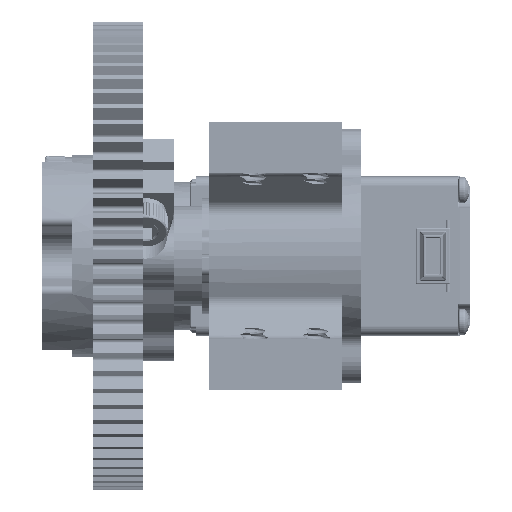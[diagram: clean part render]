
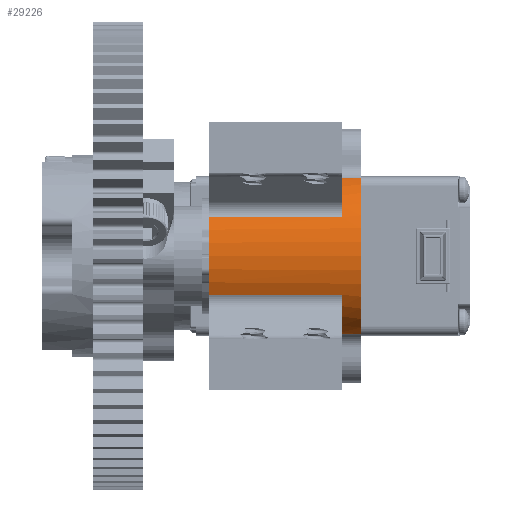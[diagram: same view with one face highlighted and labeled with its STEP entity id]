
A CAD part, left-side view. The second image highlights one B-rep face of the part: STEP entity #29226.
In plain terms, the highlighted cylindrical face has radius 10.735 mm (diameter 21.471 mm), a partial arc.
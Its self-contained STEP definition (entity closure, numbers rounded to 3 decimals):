
#2953 = ORIENTED_EDGE ( 'NONE', *, *, #248728, .F. ) ;
#4568 = AXIS2_PLACEMENT_3D ( 'NONE', #115726, #95705, #263262 ) ;
#6210 = ORIENTED_EDGE ( 'NONE', *, *, #290372, .T. ) ;
#10788 = AXIS2_PLACEMENT_3D ( 'NONE', #66982, #209341, #138287 ) ;
#12346 = CIRCLE ( 'NONE', #305087, 10.735 ) ;
#12388 = LINE ( 'NONE', #135991, #94718 ) ;
#20756 = DIRECTION ( 'NONE',  ( 0., 1., 0. ) ) ;
#25990 = VERTEX_POINT ( 'NONE', #110048 ) ;
#29226 = ADVANCED_FACE ( 'NONE', ( #289295 ), #113260, .T. ) ;
#31185 = VECTOR ( 'NONE', #109866, 1000. ) ;
#33563 = CARTESIAN_POINT ( 'NONE',  ( -52.789, -15.875, -2.866 ) ) ;
#34695 = EDGE_CURVE ( 'NONE', #189962, #194384, #272823, .T. ) ;
#37540 = LINE ( 'NONE', #179242, #258765 ) ;
#41191 = EDGE_CURVE ( 'NONE', #274925, #192843, #219876, .T. ) ;
#42057 = CARTESIAN_POINT ( 'NONE',  ( -58.056, -13.472, -7.841 ) ) ;
#45050 = VERTEX_POINT ( 'NONE', #226093 ) ;
#46767 = DIRECTION ( 'NONE',  ( 0., 1., 0. ) ) ;
#47224 = LINE ( 'NONE', #167829, #223400 ) ;
#48567 = ORIENTED_EDGE ( 'NONE', *, *, #34695, .T. ) ;
#50046 = CARTESIAN_POINT ( 'NONE',  ( -53.314, -13.472, -22.287 ) ) ;
#50118 = VECTOR ( 'NONE', #294051, 1000. ) ;
#52705 = ORIENTED_EDGE ( 'NONE', *, *, #112967, .T. ) ;
#56481 = VERTEX_POINT ( 'NONE', #68663 ) ;
#61334 = LINE ( 'NONE', #310868, #50118 ) ;
#61707 = EDGE_CURVE ( 'NONE', #189984, #268165, #191905, .T. ) ;
#63492 = ORIENTED_EDGE ( 'NONE', *, *, #274928, .T. ) ;
#64903 = LINE ( 'NONE', #304509, #31185 ) ;
#65732 = DIRECTION ( 'NONE',  ( 0., 1., 0. ) ) ;
#66293 = DIRECTION ( 'NONE',  ( 0., 0., -1. ) ) ;
#66678 = VECTOR ( 'NONE', #199293, 1000. ) ;
#66982 = CARTESIAN_POINT ( 'NONE',  ( -48.483, -13.472, -12.7 ) ) ;
#68663 = CARTESIAN_POINT ( 'NONE',  ( -53.314, 3.175, -3.113 ) ) ;
#69589 = DIRECTION ( 'NONE',  ( 0., 1., 0. ) ) ;
#69874 = EDGE_CURVE ( 'NONE', #228761, #165681, #273400, .T. ) ;
#71322 = AXIS2_PLACEMENT_3D ( 'NONE', #155787, #107542, #275098 ) ;
#72467 = CARTESIAN_POINT ( 'NONE',  ( -52.789, -12.7, -22.534 ) ) ;
#76902 = EDGE_LOOP ( 'NONE', ( #2953, #303535, #63492, #175242, #48567, #273237, #52705, #163995, #118541, #217559, #148208, #168566, #207910, #173439, #6210, #307250 ) ) ;
#80987 = CARTESIAN_POINT ( 'NONE',  ( -52.789, 0., -2.866 ) ) ;
#82636 = CIRCLE ( 'NONE', #206470, 10.735 ) ;
#86914 = DIRECTION ( 'NONE',  ( 0., 1., 0. ) ) ;
#89845 = EDGE_CURVE ( 'NONE', #56481, #111208, #47224, .T. ) ;
#94718 = VECTOR ( 'NONE', #65732, 1000. ) ;
#95705 = DIRECTION ( 'NONE',  ( 0., 1., 0. ) ) ;
#107542 = DIRECTION ( 'NONE',  ( 0., 1., 0. ) ) ;
#109866 = DIRECTION ( 'NONE',  ( 0., 1., 0. ) ) ;
#110048 = CARTESIAN_POINT ( 'NONE',  ( -52.789, -15.875, -22.534 ) ) ;
#111208 = VERTEX_POINT ( 'NONE', #116134 ) ;
#112967 = EDGE_CURVE ( 'NONE', #150498, #45050, #249383, .T. ) ;
#113260 = CYLINDRICAL_SURFACE ( 'NONE', #287804, 10.735 ) ;
#115726 = CARTESIAN_POINT ( 'NONE',  ( -48.483, -13.472, -12.7 ) ) ;
#116134 = CARTESIAN_POINT ( 'NONE',  ( -53.314, -13.472, -3.113 ) ) ;
#118541 = ORIENTED_EDGE ( 'NONE', *, *, #89845, .T. ) ;
#119279 = CARTESIAN_POINT ( 'NONE',  ( -48.483, -12.7, -23.435 ) ) ;
#119800 = CARTESIAN_POINT ( 'NONE',  ( -52.789, -12.7, -2.866 ) ) ;
#122537 = EDGE_CURVE ( 'NONE', #296047, #207286, #199810, .T. ) ;
#129003 = CARTESIAN_POINT ( 'NONE',  ( -58.056, 3.175, -7.841 ) ) ;
#130312 = DIRECTION ( 'NONE',  ( 0., -1., 0. ) ) ;
#135991 = CARTESIAN_POINT ( 'NONE',  ( -58.056, 0., -7.841 ) ) ;
#138287 = DIRECTION ( 'NONE',  ( 0., 0., -1. ) ) ;
#144475 = CARTESIAN_POINT ( 'NONE',  ( -58.056, -13.472, -17.559 ) ) ;
#146474 = CIRCLE ( 'NONE', #200219, 10.735 ) ;
#148208 = ORIENTED_EDGE ( 'NONE', *, *, #221263, .T. ) ;
#148251 = VECTOR ( 'NONE', #69589, 1000. ) ;
#150498 = VERTEX_POINT ( 'NONE', #246545 ) ;
#155787 = CARTESIAN_POINT ( 'NONE',  ( -48.483, 3.175, -12.7 ) ) ;
#159603 = CARTESIAN_POINT ( 'NONE',  ( -48.483, -12.7, -12.7 ) ) ;
#162755 = DIRECTION ( 'NONE',  ( 0., 1., 0. ) ) ;
#163995 = ORIENTED_EDGE ( 'NONE', *, *, #308040, .F. ) ;
#165681 = VERTEX_POINT ( 'NONE', #144475 ) ;
#167829 = CARTESIAN_POINT ( 'NONE',  ( -53.314, 0., -3.113 ) ) ;
#168566 = ORIENTED_EDGE ( 'NONE', *, *, #122537, .F. ) ;
#169892 = DIRECTION ( 'NONE',  ( 0., -1., 0. ) ) ;
#171041 = VECTOR ( 'NONE', #130312, 1000. ) ;
#173439 = ORIENTED_EDGE ( 'NONE', *, *, #69874, .F. ) ;
#175242 = ORIENTED_EDGE ( 'NONE', *, *, #238679, .F. ) ;
#176381 = CARTESIAN_POINT ( 'NONE',  ( -58.056, 0., -17.559 ) ) ;
#179242 = CARTESIAN_POINT ( 'NONE',  ( -48.483, 0., -23.435 ) ) ;
#182578 = DIRECTION ( 'NONE',  ( 0., 1., 0. ) ) ;
#184301 = CARTESIAN_POINT ( 'NONE',  ( -58.056, 3.175, -17.559 ) ) ;
#189962 = VERTEX_POINT ( 'NONE', #33563 ) ;
#189984 = VERTEX_POINT ( 'NONE', #225263 ) ;
#191905 = CIRCLE ( 'NONE', #71322, 10.735 ) ;
#192843 = VERTEX_POINT ( 'NONE', #72467 ) ;
#194384 = VERTEX_POINT ( 'NONE', #119800 ) ;
#199293 = DIRECTION ( 'NONE',  ( 0., 1., 0. ) ) ;
#199810 = CIRCLE ( 'NONE', #272526, 10.735 ) ;
#200219 = AXIS2_PLACEMENT_3D ( 'NONE', #159603, #182578, #66293 ) ;
#206470 = AXIS2_PLACEMENT_3D ( 'NONE', #306282, #238125, #237103 ) ;
#206676 = CARTESIAN_POINT ( 'NONE',  ( -48.483, 0., -12.7 ) ) ;
#207286 = VERTEX_POINT ( 'NONE', #129003 ) ;
#207910 = ORIENTED_EDGE ( 'NONE', *, *, #303441, .T. ) ;
#209341 = DIRECTION ( 'NONE',  ( 0., 1., 0. ) ) ;
#217559 = ORIENTED_EDGE ( 'NONE', *, *, #244302, .F. ) ;
#219876 = CIRCLE ( 'NONE', #257971, 10.735 ) ;
#221263 = EDGE_CURVE ( 'NONE', #286383, #207286, #12388, .T. ) ;
#223400 = VECTOR ( 'NONE', #169892, 1000. ) ;
#223594 = CARTESIAN_POINT ( 'NONE',  ( -53.314, 3.175, -22.287 ) ) ;
#225263 = CARTESIAN_POINT ( 'NONE',  ( -48.483, 3.175, -23.435 ) ) ;
#226093 = CARTESIAN_POINT ( 'NONE',  ( -48.483, 3.175, -1.965 ) ) ;
#228761 = VERTEX_POINT ( 'NONE', #50046 ) ;
#233479 = DIRECTION ( 'NONE',  ( 0., 1., 0. ) ) ;
#235062 = CARTESIAN_POINT ( 'NONE',  ( -48.483, 0., -1.965 ) ) ;
#237103 = DIRECTION ( 'NONE',  ( 0., 0., -1. ) ) ;
#238125 = DIRECTION ( 'NONE',  ( 0., -1., 0. ) ) ;
#238679 = EDGE_CURVE ( 'NONE', #189962, #25990, #82636, .T. ) ;
#244302 = EDGE_CURVE ( 'NONE', #286383, #111208, #245834, .T. ) ;
#245834 = CIRCLE ( 'NONE', #4568, 10.735 ) ;
#246545 = CARTESIAN_POINT ( 'NONE',  ( -48.483, -12.7, -1.965 ) ) ;
#248728 = EDGE_CURVE ( 'NONE', #274925, #189984, #37540, .T. ) ;
#249383 = LINE ( 'NONE', #235062, #148251 ) ;
#251364 = CARTESIAN_POINT ( 'NONE',  ( -48.483, 3.175, -12.7 ) ) ;
#257971 = AXIS2_PLACEMENT_3D ( 'NONE', #308764, #20756, #260569 ) ;
#258765 = VECTOR ( 'NONE', #233479, 1000. ) ;
#260569 = DIRECTION ( 'NONE',  ( 0., 0., -1. ) ) ;
#263262 = DIRECTION ( 'NONE',  ( 0., 0., -1. ) ) ;
#268165 = VERTEX_POINT ( 'NONE', #223594 ) ;
#272526 = AXIS2_PLACEMENT_3D ( 'NONE', #251364, #86914, #298519 ) ;
#272823 = LINE ( 'NONE', #80987, #66678 ) ;
#273237 = ORIENTED_EDGE ( 'NONE', *, *, #278504, .T. ) ;
#273400 = CIRCLE ( 'NONE', #10788, 10.735 ) ;
#274925 = VERTEX_POINT ( 'NONE', #119279 ) ;
#274928 = EDGE_CURVE ( 'NONE', #192843, #25990, #61334, .T. ) ;
#275098 = DIRECTION ( 'NONE',  ( 0., 0., 1. ) ) ;
#278504 = EDGE_CURVE ( 'NONE', #194384, #150498, #146474, .T. ) ;
#278932 = DIRECTION ( 'NONE',  ( 0., 0., 1. ) ) ;
#284577 = CARTESIAN_POINT ( 'NONE',  ( -48.483, 3.175, -12.7 ) ) ;
#286383 = VERTEX_POINT ( 'NONE', #42057 ) ;
#287804 = AXIS2_PLACEMENT_3D ( 'NONE', #206676, #162755, #278932 ) ;
#289295 = FACE_OUTER_BOUND ( 'NONE', #76902, .T. ) ;
#290372 = EDGE_CURVE ( 'NONE', #228761, #268165, #64903, .T. ) ;
#294051 = DIRECTION ( 'NONE',  ( 0., -1., 0. ) ) ;
#296047 = VERTEX_POINT ( 'NONE', #184301 ) ;
#298519 = DIRECTION ( 'NONE',  ( 0., 0., 1. ) ) ;
#303441 = EDGE_CURVE ( 'NONE', #296047, #165681, #305836, .T. ) ;
#303535 = ORIENTED_EDGE ( 'NONE', *, *, #41191, .T. ) ;
#304509 = CARTESIAN_POINT ( 'NONE',  ( -53.314, 0., -22.287 ) ) ;
#305087 = AXIS2_PLACEMENT_3D ( 'NONE', #284577, #46767, #308691 ) ;
#305836 = LINE ( 'NONE', #176381, #171041 ) ;
#306282 = CARTESIAN_POINT ( 'NONE',  ( -48.483, -15.875, -12.7 ) ) ;
#307250 = ORIENTED_EDGE ( 'NONE', *, *, #61707, .F. ) ;
#308040 = EDGE_CURVE ( 'NONE', #56481, #45050, #12346, .T. ) ;
#308691 = DIRECTION ( 'NONE',  ( 0., 0., 1. ) ) ;
#308764 = CARTESIAN_POINT ( 'NONE',  ( -48.483, -12.7, -12.7 ) ) ;
#310868 = CARTESIAN_POINT ( 'NONE',  ( -52.789, 0., -22.534 ) ) ;
